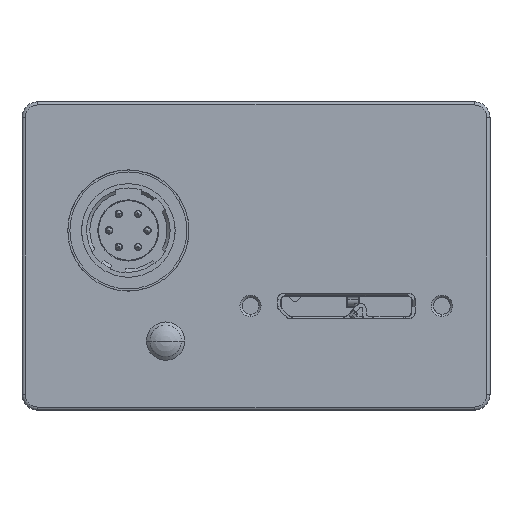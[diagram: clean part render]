
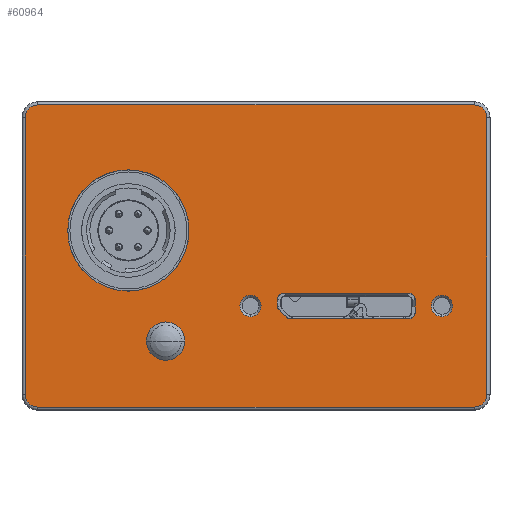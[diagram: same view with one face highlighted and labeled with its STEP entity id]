
A CAD part, front view. The second image highlights one B-rep face of the part: STEP entity #60964.
In plain terms, the highlighted planar face has unit normal (0, -1, 0).
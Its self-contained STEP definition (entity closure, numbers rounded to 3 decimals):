
#35871=DIRECTION('',(0.,0.,1.));
#35872=VECTOR('',#35871,26.);
#35873=CARTESIAN_POINT('',(13.2,-4.475,-6.93));
#35874=LINE('',#35873,#35872);
#35885=CARTESIAN_POINT('',(12.,-4.475,19.07));
#35886=DIRECTION('',(0.,1.,0.));
#35887=DIRECTION('',(0.,0.,1.));
#35888=AXIS2_PLACEMENT_3D('',#35885,#35886,#35887);
#35893=CARTESIAN_POINT('',(12.,-4.475,-6.93));
#35894=DIRECTION('',(0.,1.,0.));
#35895=DIRECTION('',(1.,0.,0.));
#35896=AXIS2_PLACEMENT_3D('',#35893,#35894,#35895);
#35901=CARTESIAN_POINT('',(-29.,-4.475,-6.93));
#35902=DIRECTION('',(0.,1.,0.));
#35903=DIRECTION('',(0.,0.,-1.));
#35904=AXIS2_PLACEMENT_3D('',#35901,#35902,#35903);
#35909=CARTESIAN_POINT('',(-29.,-4.475,19.07));
#35910=DIRECTION('',(0.,1.,0.));
#35911=DIRECTION('',(-1.,0.,0.));
#35912=AXIS2_PLACEMENT_3D('',#35909,#35910,#35911);
#35917=CARTESIAN_POINT('',(-5.9,-4.475,1.419));
#35918=DIRECTION('',(0.,-1.,0.));
#35919=DIRECTION('',(-1.,0.,0.));
#35920=AXIS2_PLACEMENT_3D('',#35917,#35918,#35919);
#35925=DIRECTION('',(0.707,0.,-0.707));
#35926=VECTOR('',#35925,0.917);
#35927=CARTESIAN_POINT('',(-6.324,-4.475,0.994));
#35928=LINE('',#35927,#35926);
#35932=CARTESIAN_POINT('',(-5.251,-4.475,0.77));
#35933=DIRECTION('',(0.,-1.,0.));
#35934=DIRECTION('',(-0.707,0.,-0.707));
#35935=AXIS2_PLACEMENT_3D('',#35932,#35933,#35934);
#35940=CARTESIAN_POINT('',(5.87,-4.475,0.77));
#35941=DIRECTION('',(0.,-1.,0.));
#35942=DIRECTION('',(0.,0.,-1.));
#35943=AXIS2_PLACEMENT_3D('',#35940,#35941,#35942);
#35948=CARTESIAN_POINT('',(5.87,-4.475,1.97));
#35949=DIRECTION('',(0.,-1.,0.));
#35950=DIRECTION('',(1.,0.,0.));
#35951=AXIS2_PLACEMENT_3D('',#35948,#35949,#35950);
#35956=CARTESIAN_POINT('',(-5.9,-4.475,1.97));
#35957=DIRECTION('',(0.,-1.,0.));
#35958=DIRECTION('',(0.,0.,1.));
#35959=AXIS2_PLACEMENT_3D('',#35956,#35957,#35958);
#35964=CARTESIAN_POINT('',(-20.5,-4.475,8.47));
#35965=DIRECTION('',(0.,-1.,0.));
#35966=DIRECTION('',(1.,0.,0.));
#35967=AXIS2_PLACEMENT_3D('',#35964,#35965,#35966);
#35972=CARTESIAN_POINT('',(-20.5,-4.475,8.47));
#35973=DIRECTION('',(0.,-1.,0.));
#35974=DIRECTION('',(-1.,0.,0.));
#35975=AXIS2_PLACEMENT_3D('',#35972,#35973,#35974);
#35980=DIRECTION('',(-1.,0.,0.));
#35981=VECTOR('',#35980,41.);
#35982=CARTESIAN_POINT('',(12.,-4.475,20.27));
#35983=LINE('',#35982,#35981);
#36018=DIRECTION('',(0.,0.,-1.));
#36019=VECTOR('',#36018,26.);
#36020=CARTESIAN_POINT('',(-30.2,-4.475,19.07));
#36021=LINE('',#36020,#36019);
#36056=DIRECTION('',(1.,0.,0.));
#36057=VECTOR('',#36056,41.);
#36058=CARTESIAN_POINT('',(-29.,-4.475,-8.13));
#36059=LINE('',#36058,#36057);
#36118=DIRECTION('',(0.,0.,1.));
#36119=VECTOR('',#36118,0.551);
#36120=CARTESIAN_POINT('',(-6.5,-4.475,1.419));
#36121=LINE('',#36120,#36119);
#36482=DIRECTION('',(1.,0.,0.));
#36483=VECTOR('',#36482,11.77);
#36484=CARTESIAN_POINT('',(-5.9,-4.475,2.57));
#36485=LINE('',#36484,#36483);
#36503=DIRECTION('',(0.,0.,-1.));
#36504=VECTOR('',#36503,1.2);
#36505=CARTESIAN_POINT('',(6.47,-4.475,1.97));
#36506=LINE('',#36505,#36504);
#36524=DIRECTION('',(-1.,0.,0.));
#36525=VECTOR('',#36524,11.121);
#36526=CARTESIAN_POINT('',(5.87,-4.475,0.17));
#36527=LINE('',#36526,#36525);
#39001=CARTESIAN_POINT('',(8.985,-4.475,1.37));
#39002=DIRECTION('',(0.,1.,0.));
#39003=DIRECTION('',(0.,0.,1.));
#39004=AXIS2_PLACEMENT_3D('',#39001,#39002,#39003);
#39016=CARTESIAN_POINT('',(8.985,-4.475,1.37));
#39017=DIRECTION('',(0.,1.,0.));
#39018=DIRECTION('',(0.,0.,-1.));
#39019=AXIS2_PLACEMENT_3D('',#39016,#39017,#39018);
#39183=CARTESIAN_POINT('',(-9.015,-4.475,1.37));
#39184=DIRECTION('',(0.,1.,0.));
#39185=DIRECTION('',(0.,0.,-1.));
#39186=AXIS2_PLACEMENT_3D('',#39183,#39184,#39185);
#39198=CARTESIAN_POINT('',(-9.015,-4.475,1.37));
#39199=DIRECTION('',(0.,1.,0.));
#39200=DIRECTION('',(0.,0.,1.));
#39201=AXIS2_PLACEMENT_3D('',#39198,#39199,#39200);
#39213=CARTESIAN_POINT('',(-17.,-4.475,-1.93));
#39214=DIRECTION('',(0.,-1.,0.));
#39215=DIRECTION('',(1.,0.,0.));
#39216=AXIS2_PLACEMENT_3D('',#39213,#39214,#39215);
#39229=CARTESIAN_POINT('',(-17.,-4.475,-1.93));
#39230=DIRECTION('',(0.,-1.,0.));
#39231=DIRECTION('',(-1.,0.,0.));
#39232=AXIS2_PLACEMENT_3D('',#39229,#39230,#39231);
#56111=CARTESIAN_POINT('',(12.,-4.475,20.27));
#56112=CARTESIAN_POINT('',(-29.,-4.475,20.27));
#56113=VERTEX_POINT('',#56111);
#56114=VERTEX_POINT('',#56112);
#56115=CARTESIAN_POINT('',(13.2,-4.475,19.07));
#56116=VERTEX_POINT('',#56115);
#56117=CARTESIAN_POINT('',(13.2,-4.475,-6.93));
#56118=VERTEX_POINT('',#56117);
#56119=CARTESIAN_POINT('',(12.,-4.475,-8.13));
#56120=VERTEX_POINT('',#56119);
#56121=CARTESIAN_POINT('',(-29.,-4.475,-8.13));
#56122=VERTEX_POINT('',#56121);
#56123=CARTESIAN_POINT('',(-30.2,-4.475,-6.93));
#56124=VERTEX_POINT('',#56123);
#56125=CARTESIAN_POINT('',(-30.2,-4.475,19.07));
#56126=VERTEX_POINT('',#56125);
#56127=CARTESIAN_POINT('',(-6.5,-4.475,1.419));
#56128=CARTESIAN_POINT('',(-6.5,-4.475,1.97));
#56129=VERTEX_POINT('',#56127);
#56130=VERTEX_POINT('',#56128);
#56131=CARTESIAN_POINT('',(-6.324,-4.475,0.994));
#56132=VERTEX_POINT('',#56131);
#56133=CARTESIAN_POINT('',(-5.676,-4.475,0.346));
#56134=VERTEX_POINT('',#56133);
#56135=CARTESIAN_POINT('',(-5.251,-4.475,0.17));
#56136=VERTEX_POINT('',#56135);
#56137=CARTESIAN_POINT('',(5.87,-4.475,0.17));
#56138=VERTEX_POINT('',#56137);
#56139=CARTESIAN_POINT('',(6.47,-4.475,0.77));
#56140=VERTEX_POINT('',#56139);
#56141=CARTESIAN_POINT('',(6.47,-4.475,1.97));
#56142=VERTEX_POINT('',#56141);
#56143=CARTESIAN_POINT('',(5.87,-4.475,2.57));
#56144=VERTEX_POINT('',#56143);
#56145=CARTESIAN_POINT('',(-5.9,-4.475,2.57));
#56146=VERTEX_POINT('',#56145);
#56147=CARTESIAN_POINT('',(-14.8,-4.475,8.47));
#56148=CARTESIAN_POINT('',(-26.2,-4.475,8.47));
#56149=VERTEX_POINT('',#56147);
#56150=VERTEX_POINT('',#56148);
#56314=CARTESIAN_POINT('',(8.985,-4.475,0.37));
#56316=VERTEX_POINT('',#56314);
#56318=CARTESIAN_POINT('',(8.985,-4.475,2.37));
#56320=VERTEX_POINT('',#56318);
#56322=CARTESIAN_POINT('',(-9.015,-4.475,2.37));
#56324=VERTEX_POINT('',#56322);
#56326=CARTESIAN_POINT('',(-9.015,-4.475,0.37));
#56328=VERTEX_POINT('',#56326);
#56385=CARTESIAN_POINT('',(-15.2,-4.475,-1.93));
#56386=CARTESIAN_POINT('',(-18.8,-4.475,-1.93));
#56387=VERTEX_POINT('',#56385);
#56388=VERTEX_POINT('',#56386);
#60896=CARTESIAN_POINT('',(-8.5,-4.475,6.07));
#60897=DIRECTION('',(0.,1.,0.));
#60898=DIRECTION('',(0.,0.,1.));
#60899=AXIS2_PLACEMENT_3D('',#60896,#60897,#60898);
#60900=PLANE('',#60899);
#60902=ORIENTED_EDGE('',*,*,#60901,.F.);
#60904=ORIENTED_EDGE('',*,*,#60903,.T.);
#60905=ORIENTED_EDGE('',*,*,#60886,.F.);
#60907=ORIENTED_EDGE('',*,*,#60906,.T.);
#60909=ORIENTED_EDGE('',*,*,#60908,.F.);
#60911=ORIENTED_EDGE('',*,*,#60910,.T.);
#60913=ORIENTED_EDGE('',*,*,#60912,.F.);
#60915=ORIENTED_EDGE('',*,*,#60914,.T.);
#60916=EDGE_LOOP('',(#60902,#60904,#60905,#60907,#60909,#60911,#60913,#60915));
#60917=FACE_OUTER_BOUND('',#60916,.F.);
#60919=ORIENTED_EDGE('',*,*,#60918,.F.);
#60921=ORIENTED_EDGE('',*,*,#60920,.T.);
#60923=ORIENTED_EDGE('',*,*,#60922,.T.);
#60925=ORIENTED_EDGE('',*,*,#60924,.T.);
#60927=ORIENTED_EDGE('',*,*,#60926,.F.);
#60929=ORIENTED_EDGE('',*,*,#60928,.T.);
#60931=ORIENTED_EDGE('',*,*,#60930,.F.);
#60933=ORIENTED_EDGE('',*,*,#60932,.T.);
#60935=ORIENTED_EDGE('',*,*,#60934,.F.);
#60937=ORIENTED_EDGE('',*,*,#60936,.T.);
#60938=EDGE_LOOP('',(#60919,#60921,#60923,#60925,#60927,#60929,#60931,#60933,
#60935,#60937));
#60939=FACE_BOUND('',#60938,.F.);
#60941=ORIENTED_EDGE('',*,*,#60940,.T.);
#60943=ORIENTED_EDGE('',*,*,#60942,.T.);
#60944=EDGE_LOOP('',(#60941,#60943));
#60945=FACE_BOUND('',#60944,.F.);
#60947=ORIENTED_EDGE('',*,*,#60946,.F.);
#60949=ORIENTED_EDGE('',*,*,#60948,.F.);
#60950=EDGE_LOOP('',(#60947,#60949));
#60951=FACE_BOUND('',#60950,.F.);
#60953=ORIENTED_EDGE('',*,*,#60952,.F.);
#60955=ORIENTED_EDGE('',*,*,#60954,.F.);
#60956=EDGE_LOOP('',(#60953,#60955));
#60957=FACE_BOUND('',#60956,.F.);
#60959=ORIENTED_EDGE('',*,*,#60958,.T.);
#60961=ORIENTED_EDGE('',*,*,#60960,.T.);
#60962=EDGE_LOOP('',(#60959,#60961));
#60963=FACE_BOUND('',#60962,.F.);
#60964=ADVANCED_FACE('',(#60917,#60939,#60945,#60951,#60957,#60963),#60900,.F.);
#35889=CIRCLE('',#35888,1.2);
#35897=CIRCLE('',#35896,1.2);
#35905=CIRCLE('',#35904,1.2);
#35913=CIRCLE('',#35912,1.2);
#35921=CIRCLE('',#35920,0.6);
#35936=CIRCLE('',#35935,0.6);
#35944=CIRCLE('',#35943,0.6);
#35952=CIRCLE('',#35951,0.6);
#35960=CIRCLE('',#35959,0.6);
#35968=CIRCLE('',#35967,5.7);
#35976=CIRCLE('',#35975,5.7);
#39005=CIRCLE('',#39004,1.);
#39020=CIRCLE('',#39019,1.);
#39187=CIRCLE('',#39186,1.);
#39202=CIRCLE('',#39201,1.);
#39217=CIRCLE('',#39216,1.8);
#39233=CIRCLE('',#39232,1.8);
#60886=EDGE_CURVE('',#56118,#56116,#35874,.T.);
#60901=EDGE_CURVE('',#56113,#56114,#35983,.T.);
#60903=EDGE_CURVE('',#56113,#56116,#35889,.T.);
#60906=EDGE_CURVE('',#56118,#56120,#35897,.T.);
#60908=EDGE_CURVE('',#56122,#56120,#36059,.T.);
#60910=EDGE_CURVE('',#56122,#56124,#35905,.T.);
#60912=EDGE_CURVE('',#56126,#56124,#36021,.T.);
#60914=EDGE_CURVE('',#56126,#56114,#35913,.T.);
#60918=EDGE_CURVE('',#56129,#56130,#36121,.T.);
#60920=EDGE_CURVE('',#56129,#56132,#35921,.T.);
#60922=EDGE_CURVE('',#56132,#56134,#35928,.T.);
#60924=EDGE_CURVE('',#56134,#56136,#35936,.T.);
#60926=EDGE_CURVE('',#56138,#56136,#36527,.T.);
#60928=EDGE_CURVE('',#56138,#56140,#35944,.T.);
#60930=EDGE_CURVE('',#56142,#56140,#36506,.T.);
#60932=EDGE_CURVE('',#56142,#56144,#35952,.T.);
#60934=EDGE_CURVE('',#56146,#56144,#36485,.T.);
#60936=EDGE_CURVE('',#56146,#56130,#35960,.T.);
#60940=EDGE_CURVE('',#56149,#56150,#35968,.T.);
#60942=EDGE_CURVE('',#56150,#56149,#35976,.T.);
#60946=EDGE_CURVE('',#56320,#56316,#39005,.T.);
#60948=EDGE_CURVE('',#56316,#56320,#39020,.T.);
#60952=EDGE_CURVE('',#56328,#56324,#39187,.T.);
#60954=EDGE_CURVE('',#56324,#56328,#39202,.T.);
#60958=EDGE_CURVE('',#56387,#56388,#39217,.T.);
#60960=EDGE_CURVE('',#56388,#56387,#39233,.T.);
